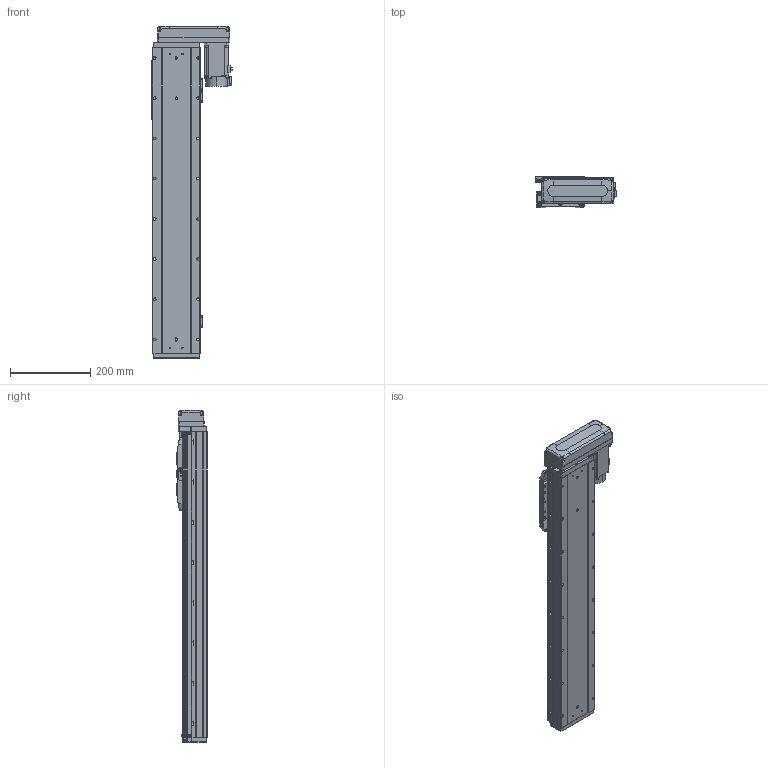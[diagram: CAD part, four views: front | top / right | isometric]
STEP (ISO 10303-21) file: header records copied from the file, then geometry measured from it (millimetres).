
FILE_DESCRIPTION (( 'STEP AP203' ), '1' );
FILE_NAME ('GTH12-550-BL-M40-C4.step', '2023-07-04T10:41:00', ( '微软用户' ), ( '微软中国' ), 'SwSTEP 2.0', 'SolidWorks 2020', '' );
FILE_SCHEMA (( 'CONFIG_CONTROL_DESIGN' ));
Length unit declared in the file: millimetre
Products named in the file (18): GBT 70.1-M3℅6; GBT96.1-2002 3×0.8; GBT 70.1-M5×16; BTH-M3X5X6; GTH120-001_550; GBT 70.3-M3℅8; hg-kn43j_-s100_; GTH120-003; GTH80-022; CTHA86-033_M40B; GTH120-006; GTH80-028; GTH120-027-1_GTH120-027-2; GTH120-004; GTH50-023; GTH12-550-BL-M40-C4; GTH120-013; GTH50-024
Assembly tree (59 placements, depth 2):
  GTH12-550-BL-M40-C4
    GTH120-001_550
    GTH120-003
    GTH120-006
    GTH120-004
    GTH120-013
    GBT 70.1-M3℅6  x14
    GBT 70.1-M5×16  x10
    GBT 70.3-M3℅8  x4
    GTH80-022
    GTH80-028  x2
    GTH50-023  x3
    GTH50-024  x3
    GBT96.1-2002 3×0.8  x6
    BTH-M3X5X6  x8
    hg-kn43j_-s100_
    CTHA86-033_M40B
    GTH120-027-1_GTH120-027-2
Bounding box: 199.8 x 76 x 825.5 mm (x, y, z)
Volume: 6235791.1 mm3; surface area: 595139.9 mm2
Topology: 61 solids, 61 shells, 2428 faces, 5655 edges, 3469 vertices
Faces by surface type: plane 1254, cylinder 698, cone 288, torus 174, sphere 8, bspline 6
Entity records: 45097 total; most frequent: CARTESIAN_POINT 7638, DIRECTION 7455, ORIENTED_EDGE 6920, EDGE_CURVE 3460, AXIS2_PLACEMENT_3D 2607, VECTOR 2241, LINE 2241, VERTEX_POINT 2190
